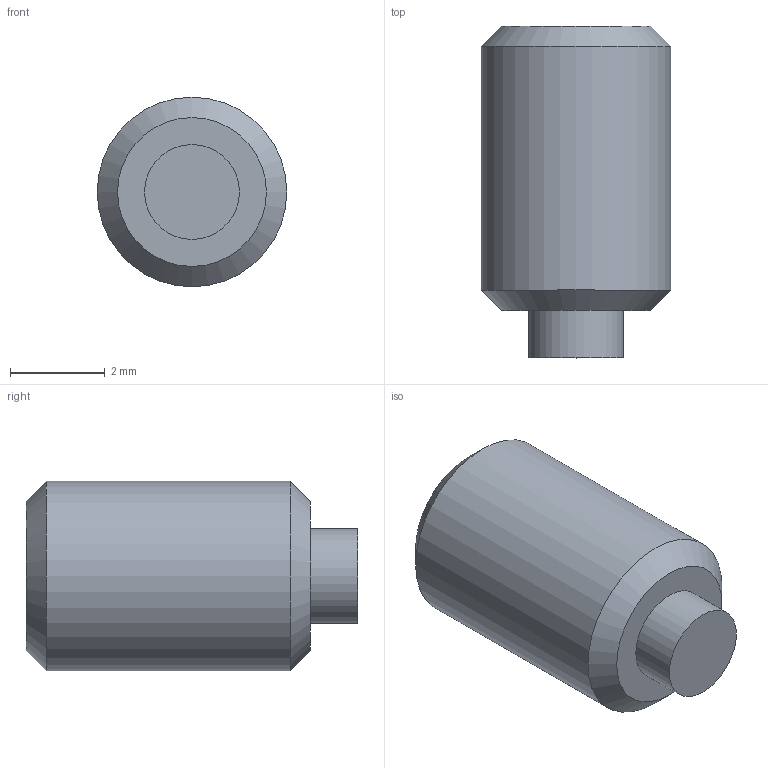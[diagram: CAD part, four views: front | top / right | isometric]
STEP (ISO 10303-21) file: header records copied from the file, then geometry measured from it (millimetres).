
FILE_DESCRIPTION( ( 'STEP AP203' ), '1' );
FILE_NAME( 'C:/Temp/Ganter_Step_05_03_2020/data/3_2/gn913_3/Grub screw GN 913.3-M4-6-KU.stp', '2020-03-13T05:35:32', ( 'License CC BY-ND 4.0' ), ( 'CADENAS' ), ' ', 'PARTsolutions', ' ' );
FILE_SCHEMA( ( 'CONFIG_CONTROL_DESIGN' ) );
Length unit declared in the file: millimetre
Products named in the file (1): _Grub screw GN 913.3-M4-6-KU
Bounding box: 4 x 7 x 4 mm (x, y, z)
Volume: 71.5 mm3; surface area: 113 mm2
Topology: 1 solids, 1 shells, 14 faces, 28 edges, 18 vertices
Faces by surface type: plane 10, cylinder 2, cone 2
Full cylindrical faces by diameter (mm): 2 x1, 4 x1
Entity records: 386 total; most frequent: DIRECTION 60, CARTESIAN_POINT 57, ORIENTED_EDGE 48, EDGE_CURVE 24, AXIS2_PLACEMENT_3D 21, EDGE_LOOP 20, VERTEX_POINT 18, LINE 18
